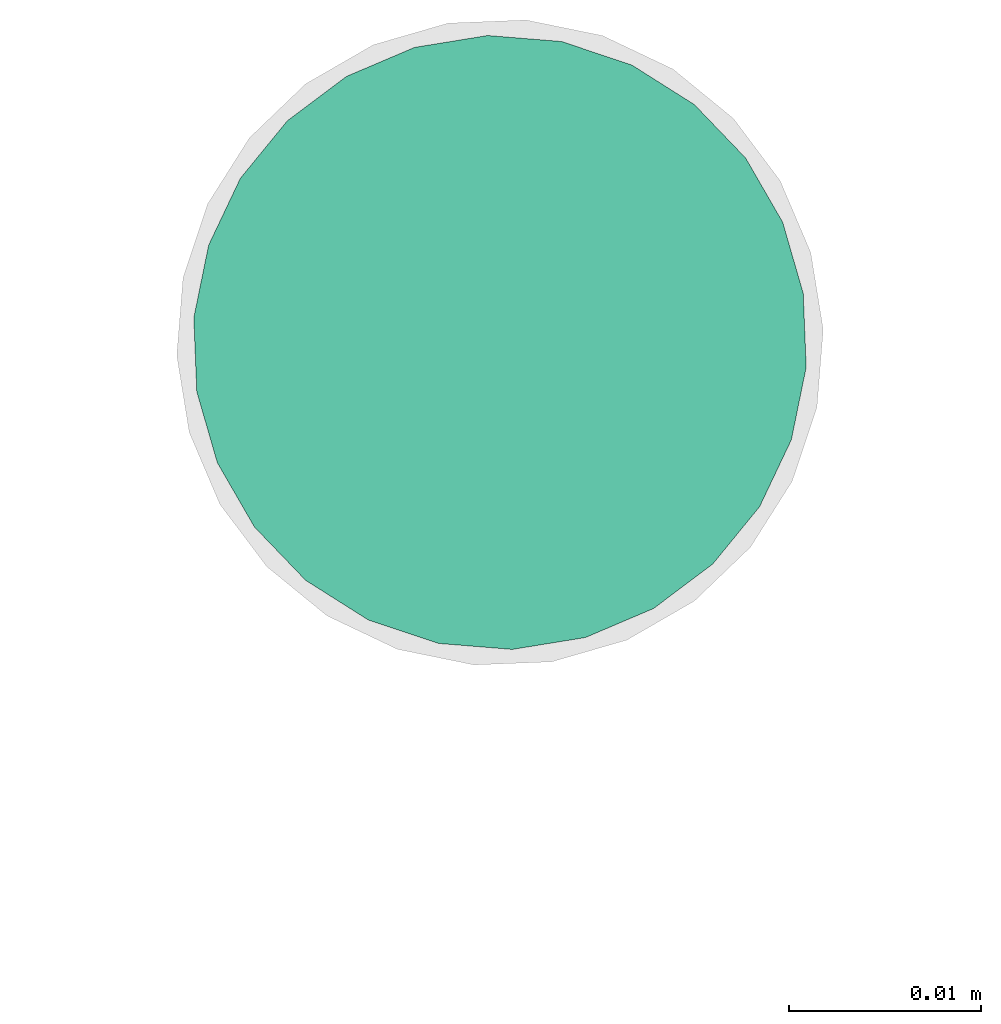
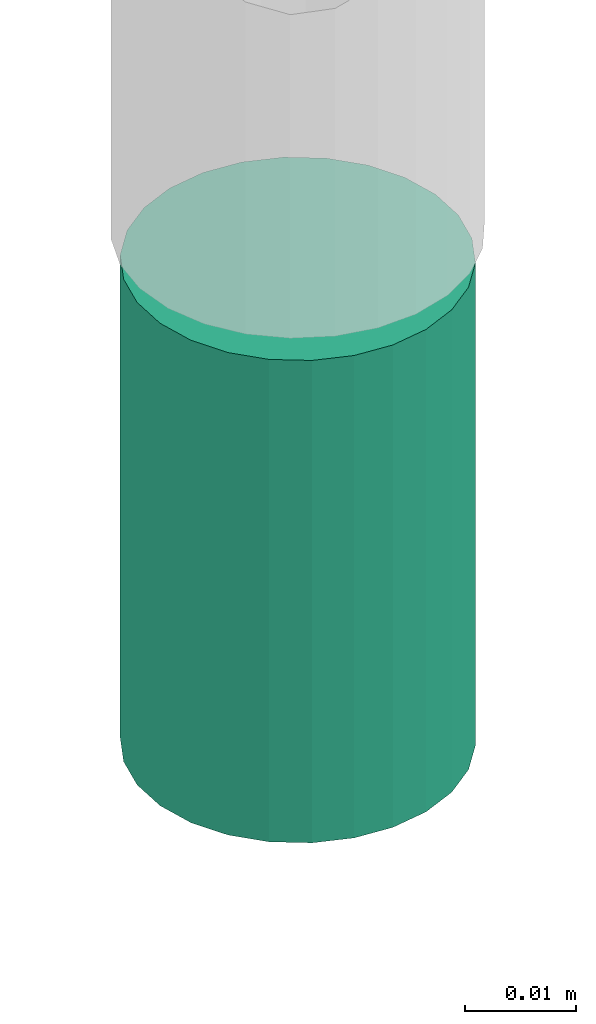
# One storey, part 7 of 8: 1 flow terminal.
"""IFC2X3 building model written with IfcOpenShell, lengths in millimetres."""

from ifc_helpers import new_model, entity, si_unit, converted_unit, derived_unit, direction, frame, frame_2d, origin, origin_with_axes, place, context, subcontext, project, spatial, circle, extrude, source, transform, mapped, material, type_object, element, save


model = new_model("IFC2X3")

# Units and contexts
plan_context = context("Plan", 3, precision=1e-05, world=origin_with_axes())
model_context = context("Model", 3, precision=0.01, world=origin(), true_north=direction((6.12323399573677e-17, 1.0)))
body_context = subcontext(model_context, "Body", "Model", "MODEL_VIEW")
ifc_project = project(units=[converted_unit("PLANEANGLEUNIT", "DEGREE", entity("IfcPositiveLengthMeasure", 0.0174532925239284), si_unit("PLANEANGLEUNIT", "RADIAN"), dimensions=[0, 0, 0, 0, 0, 0, 0]), si_unit("AREAUNIT", "SQUARE_METRE"), si_unit("LENGTHUNIT", "METRE", prefix="MILLI"), si_unit("MASSUNIT", "GRAM", prefix="KILO"), si_unit("POWERUNIT", "WATT"), si_unit("PRESSUREUNIT", "PASCAL", prefix="KILO"), si_unit("FORCEUNIT", "NEWTON", prefix="KILO"), si_unit("ELECTRICVOLTAGEUNIT", "VOLT"), si_unit("ELECTRICCURRENTUNIT", "AMPERE"), si_unit("THERMODYNAMICTEMPERATUREUNIT", "DEGREE_CELSIUS"), si_unit("TIMEUNIT", "SECOND"), si_unit("VOLUMEUNIT", "CUBIC_METRE"), derived_unit("LINEARVELOCITYUNIT", [(si_unit("LENGTHUNIT", "METRE"), 1), (si_unit("TIMEUNIT", "SECOND"), -1)]), derived_unit("VOLUMETRICFLOWRATEUNIT", [(si_unit("VOLUMEUNIT", "CUBIC_METRE"), 1), (si_unit("TIMEUNIT", "SECOND"), -1)]), derived_unit("THERMALTRANSMITTANCEUNIT", [(si_unit("POWERUNIT", "WATT"), 1), (si_unit("THERMODYNAMICTEMPERATUREUNIT", "KELVIN"), -1), (si_unit("AREAUNIT", "SQUARE_METRE"), -1)]), derived_unit("SOUNDPRESSUREUNIT", [(si_unit("PRESSUREUNIT", "PASCAL"), 1)])], contexts=[model_context, plan_context])

# Site, building, storey
site_placement = place(None, frame((-0.00071070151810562, 0.00438415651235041, 0.0), z_axis=(0.0, 0.0, 1.0), x_axis=(-0.160236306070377, 0.987078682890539, 0.0)))
site = spatial("IfcSite", under=ifc_project, at=site_placement, Name="Default", CompositionType="ELEMENT")
building_placement = place(site_placement, origin_with_axes())
building = spatial("IfcBuilding", under=site, at=building_placement, CompositionType="ELEMENT")
storey_placement = place(building_placement, frame((0.0, 0.0, 58999.9999999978), z_axis=(0.0, 0.0, 1.0), x_axis=(1.0, 0.0, 0.0)))
storey = spatial("IfcBuildingStorey", under=building, at=storey_placement, Name="Nivå F", CompositionType="ELEMENT", Elevation=58999.9999999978)

# Flow terminal
ifc_material = material(Name="<Unnamed>")
fire_suppression_terminal_type = type_object("IfcFireSuppressionTerminalType", Name="UZ003T:Dyse/Spreder - UZ003T", PredefinedType="NOTDEFINED", material=ifc_material)
shared_shape = source(origin(), body_context, "Body", "SweptSolid", [
    extrude(circle(Radius=16.0, at=frame_2d((0.0, -2.58487131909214e-14), x_axis=(1.0, 0.0))), origin(), (0.0, 0.0, 1.0), 53.0),
])
flow_terminal_placement = place(storey_placement, frame((786297.619644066, -508493.480498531, 2700.0), z_axis=(0.0, 0.0, -1.0), x_axis=(0.0, 1.0, 0.0)))
element("IfcFlowTerminal", 1, at=flow_terminal_placement, inside=storey, type_object=fire_suppression_terminal_type, material=ifc_material, Name="UZ003T:Dyse/Spreder - UZ003T", ObjectType="UZ003T:Dyse/Spreder - UZ003T", context=body_context, shape_type="MappedRepresentation", body=[
    mapped(shared_shape, transform((0.0, 0.0, 0.0), scale=1.0)),
])

save(model, "model.ifc")
